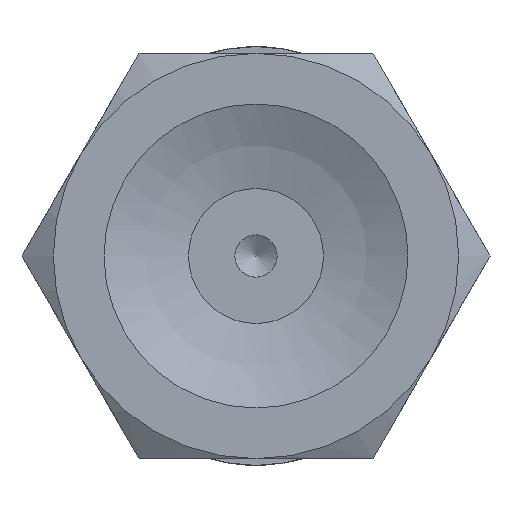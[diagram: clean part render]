
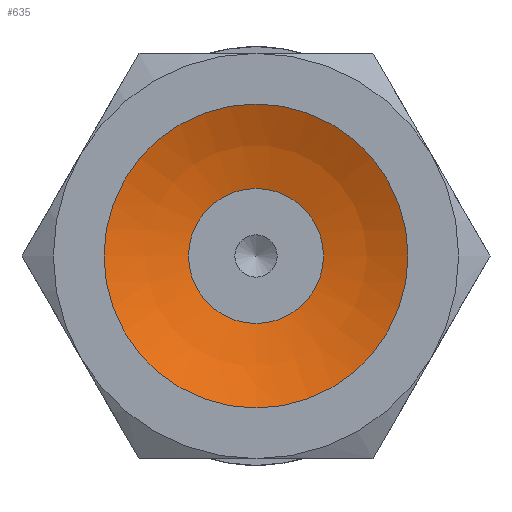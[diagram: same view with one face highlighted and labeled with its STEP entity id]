
A CAD part, front view. The second image highlights one B-rep face of the part: STEP entity #635.
In plain terms, the highlighted spherical face has radius 10.203 mm.
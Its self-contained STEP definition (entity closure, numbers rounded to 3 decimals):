
#635=ADVANCED_FACE('',(#987,#988),#989,.F.);
#987=FACE_OUTER_BOUND('',#1426,.T.);
#988=FACE_OUTER_BOUND('',#1427,.T.);
#989=SPHERICAL_SURFACE('',#1428,10.203);
#1426=EDGE_LOOP('',(#2589));
#1427=EDGE_LOOP('',(#2590));
#1428=AXIS2_PLACEMENT_3D('',#2591,#2592,#2593);
#2589=ORIENTED_EDGE('',*,*,#3155,.T.);
#2590=ORIENTED_EDGE('',*,*,#3154,.F.);
#2591=CARTESIAN_POINT('',(0.,-9.157,0.));
#2592=DIRECTION('',(0.0,-1.0,0.));
#2593=DIRECTION('',(1.0,0.0,0.0));
#3154=EDGE_CURVE('',#3615,#3615,#3616,.T.);
#3155=EDGE_CURVE('',#3617,#3617,#3618,.T.);
#3615=VERTEX_POINT('',#4743);
#3616=CIRCLE('',#4744,2.);
#3617=VERTEX_POINT('',#4745);
#3618=CIRCLE('',#4746,4.5);
#4743=CARTESIAN_POINT('',(0.0,0.848,-2.));
#4744=AXIS2_PLACEMENT_3D('',#5537,#5538,#5539);
#4745=CARTESIAN_POINT('',(0.0,0.,-4.5));
#4746=AXIS2_PLACEMENT_3D('',#5540,#5541,#5542);
#5537=CARTESIAN_POINT('',(0.0,0.848,0.0));
#5538=DIRECTION('',(0.0,-1.0,0.));
#5539=DIRECTION('',(0.0,0.,-1.0));
#5540=CARTESIAN_POINT('',(0.0,0.,0.0));
#5541=DIRECTION('',(0.0,-1.0,0.));
#5542=DIRECTION('',(0.0,0.,-1.0));
